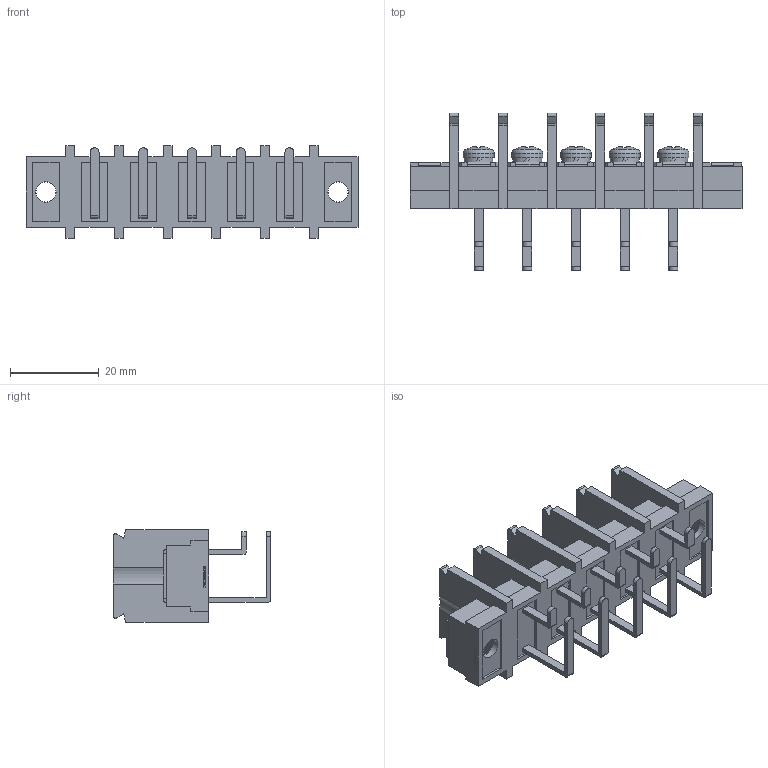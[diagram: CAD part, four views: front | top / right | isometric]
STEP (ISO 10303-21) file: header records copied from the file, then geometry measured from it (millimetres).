
FILE_DESCRIPTION(/* description */ ('Alibre Inc.'),/* implementation_level */ '2;1');
FILE_NAME(/* name */ 'export0',/* time_stamp */ '2015-12-02T12:59:59+09:00',/* author */ (''),/* organization */ (''),/* preprocessor_version */ 'ST-DEVELOPER v14',/* originating_system */ 'Alibre',/* authorisation */ '');
FILE_SCHEMA (('CONFIG_CONTROL_DESIGN'));
Length unit declared in the file: centimetre
Products named in the file (1): ID_1
Bounding box: 75 x 35.5 x 21 mm (x, y, z)
Volume: 12393.1 mm3; surface area: 14124.4 mm2
Topology: 1 solids, 17 shells, 1009 faces, 2760 edges, 1832 vertices
Faces by surface type: plane 788, bspline 104, cylinder 82, cone 25, torus 5, sphere 5
Full cylindrical faces by diameter (mm): 4 x5, 4.55 x2, 4.6 x2, 6.5 x5, 7 x5
Entity records: 30517 total; most frequent: CARTESIAN_POINT 6549, ORIENTED_EDGE 5468, DIRECTION 3693, EDGE_CURVE 2734, VECTOR 2123, LINE 2123, VERTEX_POINT 1830, AXIS2_PLACEMENT_3D 1148
